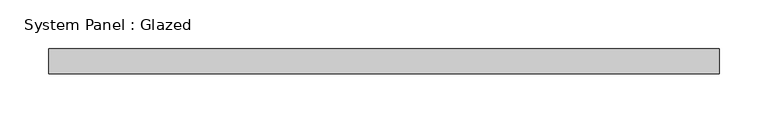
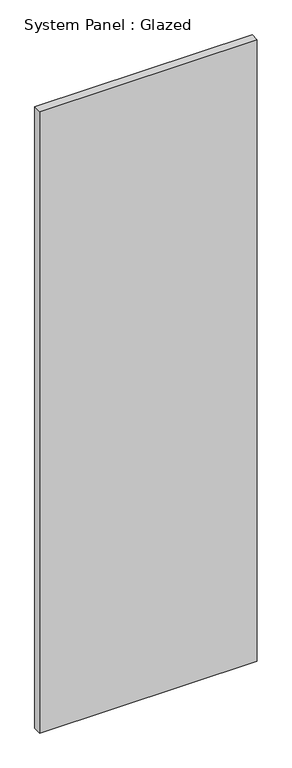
"""IFC4 building model written with IfcOpenShell, lengths in millimetres: plate geometry, System Panel : Glazed."""

from ifc_helpers import new_model, si_unit, origin, origin_with_axes, place, context, project, spatial, polyline, outline, extrude, source, transform, mapped, element, save


def system_panel_glazed_1ffa120b(model_context):
    return source(origin(), model_context, "Body", "SweptSolid", [
        extrude(outline(polyline([(343.2499999, -44.45), (-343.2499999, -44.45), (-343.2499999, -19.05), (343.2499999, -19.05), (343.2499999, -44.45)])), origin_with_axes(), (0.0, 0.0, 1.0), 2073.0),
    ])


if __name__ == "__main__":
    model = new_model("IFC4")
    model_context = context("Model", 3, world=origin())
    ifc_project = project(units=[si_unit("LENGTHUNIT", "METRE", prefix="MILLI")], contexts=[model_context])
    site = spatial("IfcSite", under=ifc_project)
    building = spatial("IfcBuilding", under=site)
    placement = place(None, origin())
    system_panel_glazed_shape = system_panel_glazed_1ffa120b(model_context)
    element("IfcPlate", 1, ObjectType="System Panel : Glazed", at=placement, inside=building, context=model_context, shape_type="MappedRepresentation", body=[
        mapped(system_panel_glazed_shape, transform((0.0, 0.0, 0.0), x_axis=(1.0, 0.0, 0.0), y_axis=(0.0, 1.0, 0.0), z_axis=(0.0, 0.0, 1.0))),
    ])
    save(model, "model.ifc")
